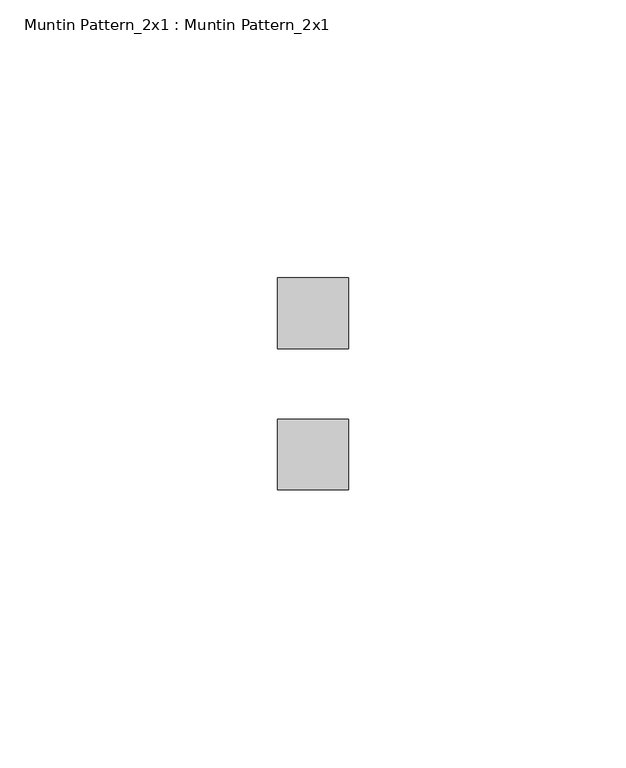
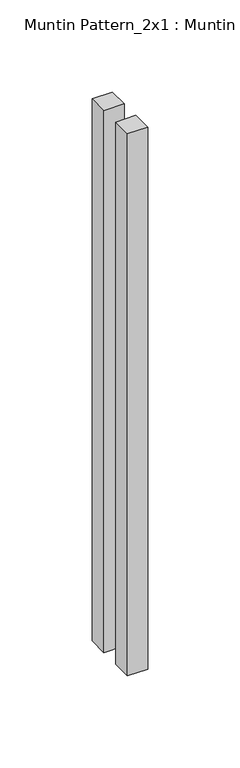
"""IFC4 building model written with IfcOpenShell, lengths in millimetres: proxy geometry, Muntin Pattern_2x1 : Muntin Pattern_2x1."""

from ifc_helpers import new_model, si_unit, origin, origin_with_axes, place, context, project, spatial, polyline, outline, extrude, source, transform, mapped, element, save


def muntin_pattern_2x1_muntin_pattern_2x1_cb6e147c(model_context):
    return source(origin(), model_context, "Body", "SweptSolid", [
        extrude(outline(polyline([(-6.35, 19.05), (6.35, 19.05), (6.35, 6.35), (-6.35, 6.35), (-6.35, 19.05)])), origin_with_axes(), (0.0, 0.0, 1.0), 358.775),
        extrude(outline(polyline([(-6.35, -6.35), (6.35, -6.35), (6.35, -19.05), (-6.35, -19.05), (-6.35, -6.35)])), origin_with_axes(), (0.0, 0.0, 1.0), 358.775),
    ])


if __name__ == "__main__":
    model = new_model("IFC4")
    model_context = context("Model", 3, world=origin())
    ifc_project = project(units=[si_unit("LENGTHUNIT", "METRE", prefix="MILLI")], contexts=[model_context])
    site = spatial("IfcSite", under=ifc_project)
    building = spatial("IfcBuilding", under=site)
    placement = place(None, origin())
    muntin_pattern_2x1_muntin_pattern_2x1_shape = muntin_pattern_2x1_muntin_pattern_2x1_cb6e147c(model_context)
    element("IfcBuildingElementProxy", 1, Name="Muntin Pattern_2x1 : Muntin Pattern_2x1", ObjectType="Muntin Pattern_2x1 : Muntin Pattern_2x1", at=placement, inside=building, context=model_context, shape_type="MappedRepresentation", body=[
        mapped(muntin_pattern_2x1_muntin_pattern_2x1_shape, transform((0.0, 0.0, 0.0), x_axis=(1.0, 0.0, 0.0), y_axis=(0.0, 1.0, 0.0), z_axis=(0.0, 0.0, 1.0))),
    ])
    save(model, "model.ifc")
